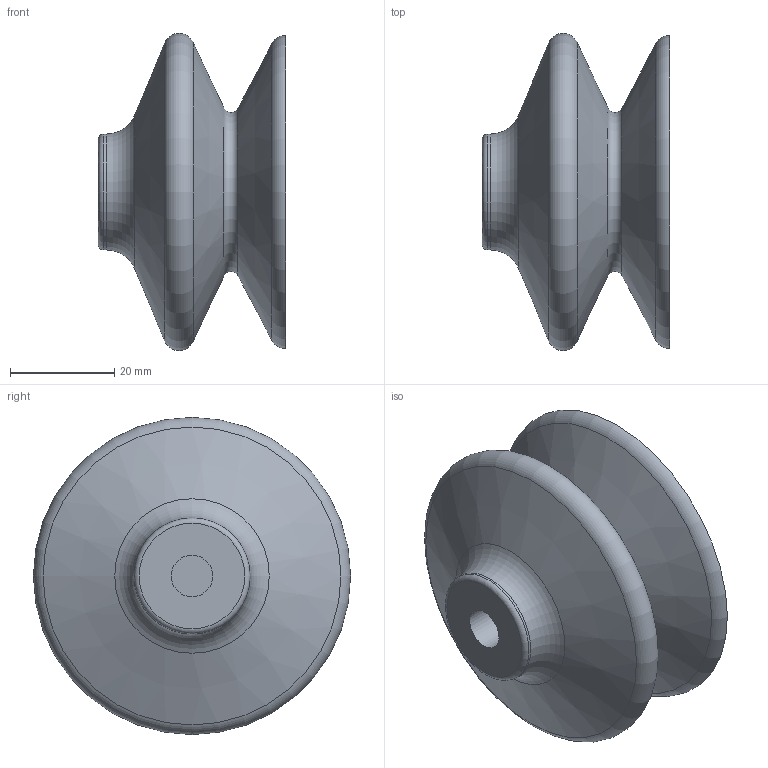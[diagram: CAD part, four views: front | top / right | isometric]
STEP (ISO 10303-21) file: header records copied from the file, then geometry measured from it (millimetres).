
FILE_DESCRIPTION(/* description */ (''),/* implementation_level */ '2;1');
FILE_NAME(/* name */ 'W:\Technik\Konstruktion\CAD-Daten\Vakuumsauger\23_\23.060.172\23.060.172_Kd neu.stp',/* time_stamp */ '2017-08-25T11:12:55+02:00',/* author */ ('DFloßmann'),/* organization */ (''),/* preprocessor_version */ 'ST-DEVELOPER v16.5',/* originating_system */ 'Autodesk Inventor 2017',/* authorisation */ '');
FILE_SCHEMA (('AUTOMOTIVE_DESIGN { 1 0 10303 214 3 1 1 }'));
Length unit declared in the file: millimetre
Products named in the file (1): 23.060.172_Kd neu
Bounding box: 36 x 61 x 61 mm (x, y, z)
Volume: 55472.4 mm3; surface area: 12838.2 mm2
Topology: 1 solids, 1 shells, 15 faces, 25 edges, 14 vertices
Faces by surface type: torus 5, plane 4, cylinder 3, cone 3
Full cylindrical faces by diameter (mm): 8 x1, 14.5 x1, 22.3 x1
Entity records: 324 total; most frequent: DIRECTION 60, CARTESIAN_POINT 44, AXIS2_PLACEMENT_3D 30, EDGE_LOOP 28, ORIENTED_EDGE 28, FACE_OUTER_BOUND 15, ADVANCED_FACE 15, CIRCLE 14
